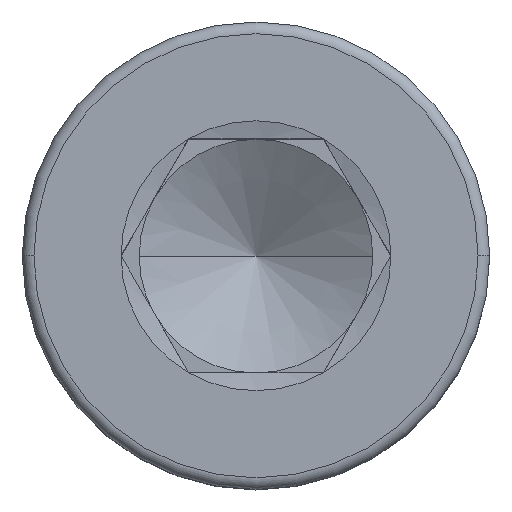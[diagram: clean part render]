
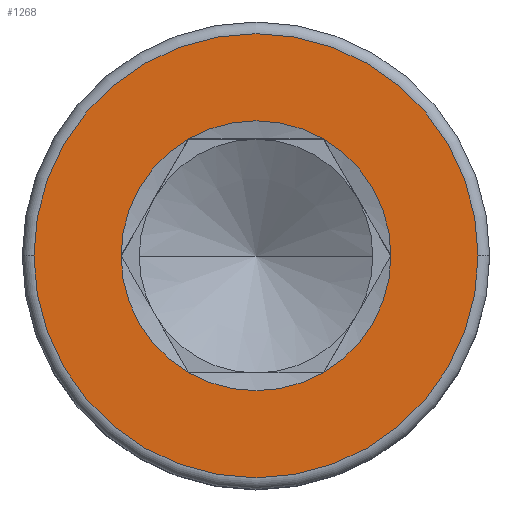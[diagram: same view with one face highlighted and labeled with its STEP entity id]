
A CAD part, top view. The second image highlights one B-rep face of the part: STEP entity #1268.
In plain terms, the highlighted planar face has unit normal (0, 0, 1).
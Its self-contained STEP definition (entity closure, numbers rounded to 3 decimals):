
#4 = DIRECTION ( 'NONE',  ( 0., 0., 1. ) ) ;
#49 = EDGE_CURVE ( 'NONE', #349, #952, #1548, .T. ) ;
#88 = CARTESIAN_POINT ( 'NONE',  ( 1.443, 2.5, 6. ) ) ;
#116 = ORIENTED_EDGE ( 'NONE', *, *, #1159, .F. ) ;
#136 = CARTESIAN_POINT ( 'NONE',  ( -1.443, -2.5, 6. ) ) ;
#137 = AXIS2_PLACEMENT_3D ( 'NONE', #609, #1529, #893 ) ;
#202 = DIRECTION ( 'NONE',  ( 0., 0., 1. ) ) ;
#210 = DIRECTION ( 'NONE',  ( 0., 0., 1. ) ) ;
#230 = PLANE ( 'NONE',  #137 ) ;
#242 = AXIS2_PLACEMENT_3D ( 'NONE', #654, #1043, #1061 ) ;
#296 = ORIENTED_EDGE ( 'NONE', *, *, #974, .F. ) ;
#349 = VERTEX_POINT ( 'NONE', #955 ) ;
#356 = VERTEX_POINT ( 'NONE', #88 ) ;
#360 = VERTEX_POINT ( 'NONE', #864 ) ;
#363 = CARTESIAN_POINT ( 'NONE',  ( -4.75, 0., 6. ) ) ;
#367 = DIRECTION ( 'NONE',  ( 1., 0., 0. ) ) ;
#374 = FACE_BOUND ( 'NONE', #1347, .T. ) ;
#388 = VERTEX_POINT ( 'NONE', #1630 ) ;
#409 = EDGE_CURVE ( 'NONE', #388, #1609, #725, .T. ) ;
#463 = DIRECTION ( 'NONE',  ( 1., 0., 0. ) ) ;
#466 = AXIS2_PLACEMENT_3D ( 'NONE', #479, #1519, #742 ) ;
#479 = CARTESIAN_POINT ( 'NONE',  ( 0., 0., 6. ) ) ;
#482 = CARTESIAN_POINT ( 'NONE',  ( 0., 0., 6. ) ) ;
#502 = ORIENTED_EDGE ( 'NONE', *, *, #49, .F. ) ;
#543 = AXIS2_PLACEMENT_3D ( 'NONE', #895, #1154, #367 ) ;
#556 = ORIENTED_EDGE ( 'NONE', *, *, #409, .T. ) ;
#570 = AXIS2_PLACEMENT_3D ( 'NONE', #984, #202, #463 ) ;
#575 = VERTEX_POINT ( 'NONE', #1482 ) ;
#609 = CARTESIAN_POINT ( 'NONE',  ( 0., 0., 6. ) ) ;
#625 = DIRECTION ( 'NONE',  ( 0., 0., 1. ) ) ;
#632 = CARTESIAN_POINT ( 'NONE',  ( 0., 0., 6. ) ) ;
#654 = CARTESIAN_POINT ( 'NONE',  ( 0., 0., 6. ) ) ;
#681 = EDGE_CURVE ( 'NONE', #1609, #388, #726, .T. ) ;
#725 = CIRCLE ( 'NONE', #570, 4.75 ) ;
#726 = CIRCLE ( 'NONE', #543, 4.75 ) ;
#729 = DIRECTION ( 'NONE',  ( 1., 0., 0. ) ) ;
#734 = CIRCLE ( 'NONE', #466, 2.887 ) ;
#737 = DIRECTION ( 'NONE',  ( 1., 0., 0. ) ) ;
#742 = DIRECTION ( 'NONE',  ( 1., 0., 0. ) ) ;
#773 = ORIENTED_EDGE ( 'NONE', *, *, #681, .T. ) ;
#809 = EDGE_LOOP ( 'NONE', ( #556, #773 ) ) ;
#836 = AXIS2_PLACEMENT_3D ( 'NONE', #905, #4, #1062 ) ;
#844 = CIRCLE ( 'NONE', #983, 2.887 ) ;
#864 = CARTESIAN_POINT ( 'NONE',  ( 2.887, 0., 6. ) ) ;
#869 = AXIS2_PLACEMENT_3D ( 'NONE', #482, #625, #1013 ) ;
#870 = ORIENTED_EDGE ( 'NONE', *, *, #1247, .F. ) ;
#883 = ORIENTED_EDGE ( 'NONE', *, *, #1608, .F. ) ;
#893 = DIRECTION ( 'NONE',  ( 1., 0., 0. ) ) ;
#895 = CARTESIAN_POINT ( 'NONE',  ( 0., 0., 6. ) ) ;
#905 = CARTESIAN_POINT ( 'NONE',  ( 0., 0., 6. ) ) ;
#920 = CARTESIAN_POINT ( 'NONE',  ( -1.443, 2.5, 6. ) ) ;
#952 = VERTEX_POINT ( 'NONE', #136 ) ;
#955 = CARTESIAN_POINT ( 'NONE',  ( -2.887, 0., 6. ) ) ;
#974 = EDGE_CURVE ( 'NONE', #952, #575, #1067, .T. ) ;
#983 = AXIS2_PLACEMENT_3D ( 'NONE', #632, #1152, #729 ) ;
#984 = CARTESIAN_POINT ( 'NONE',  ( 0., 0., 6. ) ) ;
#1013 = DIRECTION ( 'NONE',  ( 1., 0., 0. ) ) ;
#1043 = DIRECTION ( 'NONE',  ( 0., 0., 1. ) ) ;
#1061 = DIRECTION ( 'NONE',  ( 1., 0., 0. ) ) ;
#1062 = DIRECTION ( 'NONE',  ( 1., 0., 0. ) ) ;
#1067 = CIRCLE ( 'NONE', #242, 2.887 ) ;
#1122 = AXIS2_PLACEMENT_3D ( 'NONE', #1264, #210, #737 ) ;
#1152 = DIRECTION ( 'NONE',  ( 0., 0., 1. ) ) ;
#1154 = DIRECTION ( 'NONE',  ( 0., 0., 1. ) ) ;
#1159 = EDGE_CURVE ( 'NONE', #1418, #349, #844, .T. ) ;
#1194 = EDGE_CURVE ( 'NONE', #356, #1418, #1530, .T. ) ;
#1247 = EDGE_CURVE ( 'NONE', #575, #360, #1398, .T. ) ;
#1264 = CARTESIAN_POINT ( 'NONE',  ( 0., 0., 6. ) ) ;
#1268 = ADVANCED_FACE ( 'NONE', ( #1661, #374 ), #230, .T. ) ;
#1347 = EDGE_LOOP ( 'NONE', ( #883, #870, #296, #502, #116, #1567 ) ) ;
#1398 = CIRCLE ( 'NONE', #1122, 2.887 ) ;
#1418 = VERTEX_POINT ( 'NONE', #920 ) ;
#1482 = CARTESIAN_POINT ( 'NONE',  ( 1.443, -2.5, 6. ) ) ;
#1519 = DIRECTION ( 'NONE',  ( 0., 0., 1. ) ) ;
#1529 = DIRECTION ( 'NONE',  ( 0., 0., 1. ) ) ;
#1530 = CIRCLE ( 'NONE', #869, 2.887 ) ;
#1548 = CIRCLE ( 'NONE', #836, 2.887 ) ;
#1567 = ORIENTED_EDGE ( 'NONE', *, *, #1194, .F. ) ;
#1608 = EDGE_CURVE ( 'NONE', #360, #356, #734, .T. ) ;
#1609 = VERTEX_POINT ( 'NONE', #363 ) ;
#1630 = CARTESIAN_POINT ( 'NONE',  ( 4.75, 0., 6. ) ) ;
#1661 = FACE_OUTER_BOUND ( 'NONE', #809, .T. ) ;
